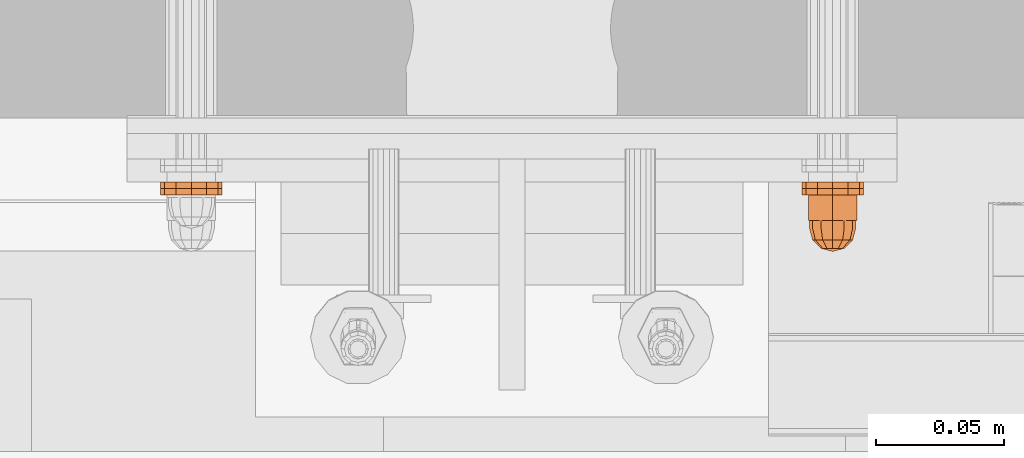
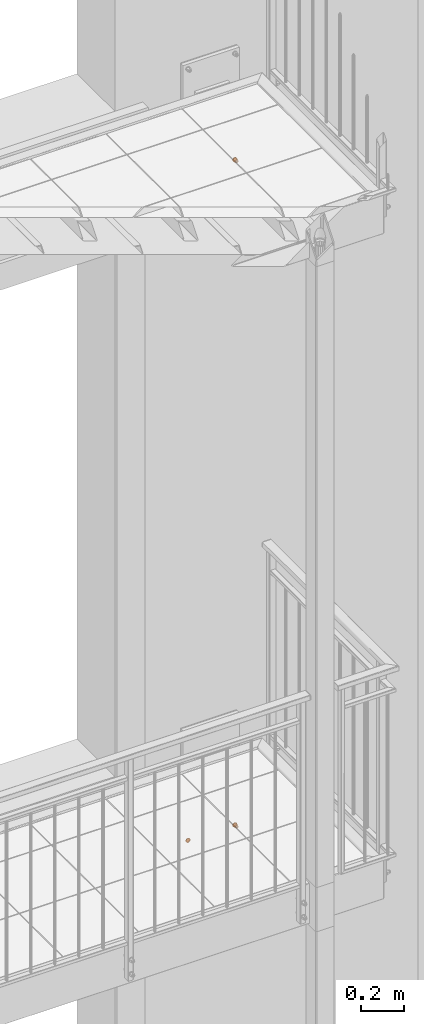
# One storey, part 152 of 162: 8 proxies.
"""IFC2X3 building model written with IfcOpenShell, lengths in millimetres."""

from ifc_helpers import new_model, entity, si_unit, converted_unit, origin_with_axes, place, context, project, spatial, faceted_brep, material, element, save


model = new_model("IFC2X3")

# Units and contexts
model_context = context("Model", 3, precision=1e-09, world=origin_with_axes())
ifc_project = project(units=[si_unit("LENGTHUNIT", "METRE", prefix="MILLI"), si_unit("AREAUNIT", "SQUARE_METRE"), si_unit("VOLUMEUNIT", "CUBIC_METRE"), converted_unit("PLANEANGLEUNIT", "DEGREE", entity("IfcPlaneAngleMeasure", 0.01745329), si_unit("PLANEANGLEUNIT", "RADIAN"), dimensions=[0, 0, 0, 0, 0, 0, 0])], contexts=[model_context])

# Site, building, storey
site_placement = place(None, origin_with_axes())
site = spatial("IfcSite", under=ifc_project, at=site_placement, Name="Hermannstra?e 1a, 60318 Frankfurt", CompositionType="ELEMENT")
building_placement = place(site_placement, origin_with_axes())
building = spatial("IfcBuilding", under=site, at=building_placement, Name="Struktur 1", CompositionType="ELEMENT")
storey_placement = place(building_placement, origin_with_axes())
storey = spatial("IfcBuildingStorey", under=building, at=storey_placement, Name="Default Storey", CompositionType="ELEMENT", Elevation=0.0)

# Proxies
ifc_material_1 = material(Name="A4")
proxy_1_placement = place(None, origin_with_axes())
element("IfcBuildingElementProxy", 1, at=proxy_1_placement, inside=storey, material=ifc_material_1, ObjectType="-", context=model_context, shape_type="Brep", body=[
    faceted_brep([(5437.917059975, 2708.109373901, 11010.999), (5437.917059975, 2705.609373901, 11010.999), (5442.30936482, 2705.609373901, 11015.391304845), (5442.30936482, 2708.109373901, 11015.391304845), (5436.30936482, 2705.609373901, 11004.999), (5437.917059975, 2705.609373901, 10998.999), (5442.30936482, 2705.609373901, 10994.606695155), (5448.30936482, 2705.609373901, 10992.999), (5454.30936482, 2705.609373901, 10994.606695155), (5458.701669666, 2705.609373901, 10998.999), (5460.30936482, 2705.609373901, 11004.999), (5458.701669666, 2705.609373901, 11010.999), (5454.30936482, 2705.609373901, 11015.391304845), (5448.30936482, 2705.609373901, 11016.999), (5448.30936482, 2705.609373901, 11011.499), (5451.55936482, 2705.609373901, 11010.628165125), (5453.938529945, 2705.609373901, 11008.249), (5454.80936482, 2705.609373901, 11004.999), (5453.938529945, 2705.609373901, 11001.749), (5451.55936482, 2705.609373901, 10999.369834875), (5448.30936482, 2705.609373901, 10998.499), (5445.05936482, 2705.609373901, 10999.369834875), (5442.680199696, 2705.609373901, 11001.749), (5441.80936482, 2705.609373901, 11004.999), (5442.680199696, 2705.609373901, 11008.249), (5445.05936482, 2705.609373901, 11010.628165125), (5442.680199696, 2708.109373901, 11008.249), (5441.80936482, 2708.109373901, 11004.999), (5442.680199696, 2708.109373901, 11001.749), (5445.05936482, 2708.109373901, 10999.369834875), (5448.30936482, 2708.109373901, 10998.499), (5451.55936482, 2708.109373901, 10999.369834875), (5453.938529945, 2708.109373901, 11001.749), (5454.80936482, 2708.109373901, 11004.999), (5453.938529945, 2708.109373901, 11008.249), (5451.55936482, 2708.109373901, 11010.628165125), (5448.30936482, 2708.109373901, 11011.499), (5445.05936482, 2708.109373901, 11010.628165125), (5436.30936482, 2708.109373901, 11004.999), (5448.30936482, 2708.109373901, 11016.999), (5437.917059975, 2708.109373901, 10998.999), (5454.30936482, 2708.109373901, 11015.391304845), (5442.30936482, 2708.109373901, 10994.606695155), (5458.701669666, 2708.109373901, 11010.999), (5448.30936482, 2708.109373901, 10992.999), (5460.30936482, 2708.109373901, 11004.999), (5454.30936482, 2708.109373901, 10994.606695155), (5458.701669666, 2708.109373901, 10998.999)], [[[0, 1, 2, 3]], [[2, 1, 4, 5, 6, 7, 8, 9, 10, 11, 12, 13], [14, 15, 16, 17, 18, 19, 20, 21, 22, 23, 24, 25]], [[26, 27, 28, 29, 30, 31, 32, 33, 34, 35, 36, 37]], [[24, 26, 37, 25]], [[1, 0, 38, 4]], [[26, 24, 23, 27]], [[25, 37, 36, 14]], [[3, 2, 13, 39]], [[4, 38, 40, 5]], [[27, 23, 22, 28]], [[14, 36, 35, 15]], [[39, 13, 12, 41]], [[5, 40, 42, 6]], [[28, 22, 21, 29]], [[15, 35, 34, 16]], [[41, 12, 11, 43]], [[33, 17, 16, 34]], [[6, 42, 44, 7]], [[29, 21, 20, 30]], [[32, 18, 17, 33]], [[43, 11, 10, 45]], [[19, 31, 30, 20]], [[18, 32, 31, 19]], [[7, 44, 46, 8]], [[45, 10, 9, 47]], [[8, 46, 47, 9]]]),
])
ifc_material_2 = material(Name="Kunststoff")
proxy_2_placement = place(None, origin_with_axes())
element("IfcBuildingElementProxy", 2, at=proxy_2_placement, inside=storey, material=ifc_material_2, ObjectType="-", context=model_context, shape_type="Brep", body=[
    faceted_brep([(5458.701669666, 2710.609373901, 11010.999), (5458.701669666, 2708.109373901, 11010.999), (5460.30936482, 2708.109373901, 11004.999), (5460.30936482, 2710.609373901, 11004.999), (5453.938529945, 2710.609373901, 11008.249), (5451.55936482, 2710.609373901, 11010.628165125), (5448.30936482, 2710.609373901, 11011.499), (5445.05936482, 2710.609373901, 11010.628165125), (5442.680199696, 2710.609373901, 11008.249), (5441.80936482, 2710.609373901, 11004.999), (5442.680199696, 2710.609373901, 11001.749), (5445.05936482, 2710.609373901, 10999.369834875), (5448.30936482, 2710.609373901, 10998.499), (5451.55936482, 2710.609373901, 10999.369834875), (5453.938529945, 2710.609373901, 11001.749), (5454.80936482, 2710.609373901, 11004.999), (5454.80936482, 2708.109373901, 11004.999), (5453.938529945, 2708.109373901, 11008.249), (5454.30936482, 2708.109373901, 11015.391304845), (5448.30936482, 2708.109373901, 11016.999), (5442.30936482, 2708.109373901, 11015.391304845), (5437.917059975, 2708.109373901, 11010.999), (5436.30936482, 2708.109373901, 11004.999), (5437.917059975, 2708.109373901, 10998.999), (5442.30936482, 2708.109373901, 10994.606695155), (5448.30936482, 2708.109373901, 10992.999), (5454.30936482, 2708.109373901, 10994.606695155), (5458.701669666, 2708.109373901, 10998.999), (5454.30936482, 2710.609373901, 11015.391304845), (5453.938529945, 2708.109373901, 11001.749), (5458.701669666, 2710.609373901, 10998.999), (5451.55936482, 2708.109373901, 11010.628165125), (5448.30936482, 2710.609373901, 11016.999), (5451.55936482, 2708.109373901, 10999.369834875), (5454.30936482, 2710.609373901, 10994.606695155), (5448.30936482, 2708.109373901, 11011.499), (5448.30936482, 2708.109373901, 10998.499), (5442.30936482, 2710.609373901, 11015.391304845), (5445.05936482, 2708.109373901, 11010.628165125), (5448.30936482, 2710.609373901, 10992.999), (5445.05936482, 2708.109373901, 10999.369834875), (5437.917059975, 2710.609373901, 11010.999), (5442.680199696, 2708.109373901, 11008.249), (5442.30936482, 2710.609373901, 10994.606695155), (5442.680199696, 2708.109373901, 11001.749), (5436.30936482, 2710.609373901, 11004.999), (5441.80936482, 2708.109373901, 11004.999), (5437.917059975, 2710.609373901, 10998.999)], [[[0, 1, 2, 3]], [[4, 5, 6, 7, 8, 9, 10, 11, 12, 13, 14, 15]], [[15, 16, 17, 4]], [[1, 18, 19, 20, 21, 22, 23, 24, 25, 26, 27, 2]], [[1, 0, 28, 18]], [[16, 15, 14, 29]], [[3, 2, 27, 30]], [[4, 17, 31, 5]], [[18, 28, 32, 19]], [[29, 14, 13, 33]], [[30, 27, 26, 34]], [[5, 31, 35, 6]], [[33, 13, 12, 36]], [[19, 32, 37, 20]], [[6, 35, 38, 7]], [[34, 26, 25, 39]], [[36, 12, 11, 40]], [[20, 37, 41, 21]], [[7, 38, 42, 8]], [[39, 25, 24, 43]], [[40, 11, 10, 44]], [[21, 41, 45, 22]], [[8, 42, 46, 9]], [[43, 24, 23, 47]], [[44, 10, 9, 46]], [[22, 45, 47, 23]]]),
])
proxy_3_placement = place(None, origin_with_axes())
element("IfcBuildingElementProxy", 3, at=proxy_3_placement, inside=storey, material=ifc_material_1, ObjectType="-", context=model_context, shape_type="Brep", body=[
    faceted_brep([(5704.30936482, 2695.609373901, 11004.999), (5704.30936482, 2705.609373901, 11004.999), (5703.505517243, 2705.609373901, 11001.999), (5703.505517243, 2695.609373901, 11001.999), (5701.30936482, 2705.609373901, 10999.802847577), (5701.30936482, 2695.609373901, 10999.802847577), (5703.505517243, 2695.609373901, 11007.999), (5703.505517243, 2705.609373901, 11007.999), (5707.789234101, 2705.609373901, 11010.472205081), (5707.789234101, 2705.609373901, 10999.525794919), (5698.30936482, 2705.609373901, 10994.052589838), (5688.82949554, 2705.609373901, 10999.525794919), (5688.82949554, 2705.609373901, 11010.472205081), (5698.30936482, 2705.609373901, 11015.945410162), (5701.30936482, 2705.609373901, 11010.195152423), (5698.30936482, 2705.609373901, 11010.999), (5695.30936482, 2705.609373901, 11010.195152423), (5693.113212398, 2705.609373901, 11007.999), (5692.30936482, 2705.609373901, 11004.999), (5693.113212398, 2705.609373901, 11001.999), (5695.30936482, 2705.609373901, 10999.802847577), (5698.30936482, 2705.609373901, 10998.999), (5707.789234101, 2695.609373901, 11010.472205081), (5698.30936482, 2695.609373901, 11015.945410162), (5688.82949554, 2695.609373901, 11010.472205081), (5688.82949554, 2695.609373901, 10999.525794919), (5698.30936482, 2695.609373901, 10994.052589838), (5707.789234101, 2695.609373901, 10999.525794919), (5701.30936482, 2695.609373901, 11010.195152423), (5698.30936482, 2695.609373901, 10998.999), (5698.30936482, 2695.609373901, 11010.999), (5695.30936482, 2695.609373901, 10999.802847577), (5695.30936482, 2695.609373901, 11010.195152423), (5693.113212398, 2695.609373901, 11001.999), (5693.113212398, 2695.609373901, 11007.999), (5692.30936482, 2695.609373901, 11004.999)], [[[0, 1, 2, 3]], [[3, 2, 4, 5]], [[1, 0, 6, 7]], [[8, 9, 10, 11, 12, 13], [7, 14, 15, 16, 17, 18, 19, 20, 21, 4, 2, 1]], [[22, 23, 24, 25, 26, 27]], [[7, 6, 28, 14]], [[22, 27, 9, 8]], [[5, 4, 21, 29]], [[10, 9, 27, 26]], [[14, 28, 30, 15]], [[23, 22, 8, 13]], [[29, 21, 20, 31]], [[11, 10, 26, 25]], [[15, 30, 32, 16]], [[24, 23, 13, 12]], [[31, 20, 19, 33]], [[25, 24, 12, 11]], [[16, 32, 34, 17]], [[33, 19, 18, 35]], [[17, 34, 35, 18]]]),
    faceted_brep([(5698.30936482, 2692.609373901, 11013.999), (5698.30936482, 2695.609373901, 11013.999), (5693.80936482, 2695.609373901, 11012.793228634), (5693.80936482, 2692.609373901, 11012.793228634), (5702.80936482, 2692.609373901, 11012.793228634), (5702.80936482, 2695.609373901, 11012.793228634), (5702.80936482, 2692.609373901, 10997.204771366), (5706.103593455, 2692.609373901, 11000.499), (5707.30936482, 2692.609373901, 11004.999), (5706.103593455, 2692.609373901, 11009.499), (5690.515136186, 2692.609373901, 11009.499), (5689.30936482, 2692.609373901, 11004.999), (5690.515136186, 2692.609373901, 11000.499), (5693.80936482, 2692.609373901, 10997.204771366), (5698.30936482, 2692.609373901, 10995.999), (5693.80936482, 2695.609373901, 10997.204771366), (5690.515136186, 2695.609373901, 11000.499), (5689.30936482, 2695.609373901, 11004.999), (5690.515136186, 2695.609373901, 11009.499), (5706.103593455, 2695.609373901, 11009.499), (5707.30936482, 2695.609373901, 11004.999), (5706.103593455, 2695.609373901, 11000.499), (5702.80936482, 2695.609373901, 10997.204771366), (5698.30936482, 2695.609373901, 10995.999)], [[[0, 1, 2, 3]], [[1, 0, 4, 5]], [[6, 7, 8, 9, 4, 0, 3, 10, 11, 12, 13, 14]], [[15, 16, 17, 18, 2, 1, 5, 19, 20, 21, 22, 23]], [[3, 2, 18, 10]], [[5, 4, 9, 19]], [[10, 18, 17, 11]], [[19, 9, 8, 20]], [[22, 6, 14, 23]], [[7, 21, 20, 8]], [[6, 22, 21, 7]], [[11, 17, 16, 12]], [[23, 14, 13, 15]], [[12, 16, 15, 13]]]),
    faceted_brep([(5705.05936482, 2688.109373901, 11008.896114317), (5706.103593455, 2692.609373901, 11009.499), (5702.80936482, 2692.609373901, 11012.793228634), (5702.206479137, 2688.109373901, 11011.749), (5693.80936482, 2692.609373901, 10997.204771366), (5690.515136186, 2692.609373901, 11000.499), (5689.30936482, 2692.609373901, 11004.999), (5690.515136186, 2692.609373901, 11009.499), (5693.80936482, 2692.609373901, 11012.793228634), (5698.30936482, 2692.609373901, 11013.999), (5707.30936482, 2692.609373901, 11004.999), (5706.103593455, 2692.609373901, 11000.499), (5702.80936482, 2692.609373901, 10997.204771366), (5698.30936482, 2692.609373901, 10995.999), (5698.30936482, 2688.109373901, 11012.793228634), (5702.80936482, 2684.815145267, 11004.999), (5706.103593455, 2688.109373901, 11004.999), (5702.206479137, 2684.815145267, 11007.249), (5694.412250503, 2688.109373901, 11011.749), (5700.55936482, 2684.815145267, 11008.896114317), (5702.206479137, 2684.815145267, 11002.749), (5705.05936482, 2688.109373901, 11001.101885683), (5698.30936482, 2684.815145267, 11009.499), (5698.30936482, 2683.609373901, 11004.999), (5700.55936482, 2684.815145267, 11001.101885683), (5702.206479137, 2688.109373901, 10998.249), (5698.30936482, 2688.109373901, 10997.204771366), (5691.55936482, 2688.109373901, 11008.896114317), (5696.05936482, 2684.815145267, 11008.896114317), (5698.30936482, 2684.815145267, 11000.499), (5694.412250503, 2688.109373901, 10998.249), (5696.05936482, 2684.815145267, 11001.101885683), (5690.515136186, 2688.109373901, 11004.999), (5694.412250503, 2684.815145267, 11007.249), (5691.55936482, 2688.109373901, 11001.101885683), (5694.412250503, 2684.815145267, 11002.749), (5693.80936482, 2684.815145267, 11004.999)], [[[0, 1, 2, 3]], [[4, 5, 6, 7, 8, 9, 2, 1, 10, 11, 12, 13]], [[3, 2, 9, 14]], [[15, 16, 0, 17]], [[1, 0, 16, 10]], [[14, 9, 8, 18]], [[17, 0, 3, 19]], [[16, 15, 20, 21]], [[19, 3, 14, 22]], [[17, 23, 15]], [[24, 25, 21, 20]], [[15, 23, 20]], [[12, 25, 26, 13]], [[11, 21, 25, 12]], [[10, 16, 21, 11]], [[18, 8, 7, 27]], [[22, 14, 18, 28]], [[19, 23, 17]], [[29, 26, 25, 24]], [[20, 23, 24]], [[22, 23, 19]], [[13, 26, 30, 4]], [[26, 29, 31, 30]], [[24, 23, 29]], [[27, 7, 6, 32]], [[28, 18, 27, 33]], [[28, 23, 22]], [[29, 23, 31]], [[33, 23, 28]], [[4, 30, 34, 5]], [[30, 31, 35, 34]], [[31, 23, 35]], [[32, 6, 5, 34]], [[33, 27, 32, 36]], [[36, 23, 33]], [[35, 23, 36]], [[34, 35, 36, 32]]]),
])
proxy_4_placement = place(None, origin_with_axes())
element("IfcBuildingElementProxy", 4, at=proxy_4_placement, inside=storey, material=ifc_material_1, ObjectType="-", context=model_context, shape_type="Brep", body=[
    faceted_brep([(5687.917059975, 2708.109373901, 11010.999), (5687.917059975, 2705.609373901, 11010.999), (5692.30936482, 2705.609373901, 11015.391304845), (5692.30936482, 2708.109373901, 11015.391304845), (5686.30936482, 2705.609373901, 11004.999), (5687.917059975, 2705.609373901, 10998.999), (5692.30936482, 2705.609373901, 10994.606695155), (5698.30936482, 2705.609373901, 10992.999), (5704.30936482, 2705.609373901, 10994.606695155), (5708.701669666, 2705.609373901, 10998.999), (5710.30936482, 2705.609373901, 11004.999), (5708.701669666, 2705.609373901, 11010.999), (5704.30936482, 2705.609373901, 11015.391304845), (5698.30936482, 2705.609373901, 11016.999), (5698.30936482, 2705.609373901, 11011.499), (5701.55936482, 2705.609373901, 11010.628165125), (5703.938529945, 2705.609373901, 11008.249), (5704.80936482, 2705.609373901, 11004.999), (5703.938529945, 2705.609373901, 11001.749), (5701.55936482, 2705.609373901, 10999.369834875), (5698.30936482, 2705.609373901, 10998.499), (5695.05936482, 2705.609373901, 10999.369834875), (5692.680199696, 2705.609373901, 11001.749), (5691.80936482, 2705.609373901, 11004.999), (5692.680199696, 2705.609373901, 11008.249), (5695.05936482, 2705.609373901, 11010.628165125), (5692.680199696, 2708.109373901, 11008.249), (5691.80936482, 2708.109373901, 11004.999), (5692.680199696, 2708.109373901, 11001.749), (5695.05936482, 2708.109373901, 10999.369834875), (5698.30936482, 2708.109373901, 10998.499), (5701.55936482, 2708.109373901, 10999.369834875), (5703.938529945, 2708.109373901, 11001.749), (5704.80936482, 2708.109373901, 11004.999), (5703.938529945, 2708.109373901, 11008.249), (5701.55936482, 2708.109373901, 11010.628165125), (5698.30936482, 2708.109373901, 11011.499), (5695.05936482, 2708.109373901, 11010.628165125), (5686.30936482, 2708.109373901, 11004.999), (5698.30936482, 2708.109373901, 11016.999), (5687.917059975, 2708.109373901, 10998.999), (5704.30936482, 2708.109373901, 11015.391304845), (5692.30936482, 2708.109373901, 10994.606695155), (5708.701669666, 2708.109373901, 11010.999), (5698.30936482, 2708.109373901, 10992.999), (5710.30936482, 2708.109373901, 11004.999), (5704.30936482, 2708.109373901, 10994.606695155), (5708.701669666, 2708.109373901, 10998.999)], [[[0, 1, 2, 3]], [[2, 1, 4, 5, 6, 7, 8, 9, 10, 11, 12, 13], [14, 15, 16, 17, 18, 19, 20, 21, 22, 23, 24, 25]], [[26, 27, 28, 29, 30, 31, 32, 33, 34, 35, 36, 37]], [[24, 26, 37, 25]], [[1, 0, 38, 4]], [[26, 24, 23, 27]], [[25, 37, 36, 14]], [[3, 2, 13, 39]], [[4, 38, 40, 5]], [[27, 23, 22, 28]], [[14, 36, 35, 15]], [[39, 13, 12, 41]], [[5, 40, 42, 6]], [[28, 22, 21, 29]], [[15, 35, 34, 16]], [[41, 12, 11, 43]], [[33, 17, 16, 34]], [[6, 42, 44, 7]], [[29, 21, 20, 30]], [[32, 18, 17, 33]], [[43, 11, 10, 45]], [[19, 31, 30, 20]], [[18, 32, 31, 19]], [[7, 44, 46, 8]], [[45, 10, 9, 47]], [[8, 46, 47, 9]]]),
])
proxy_5_placement = place(None, origin_with_axes())
element("IfcBuildingElementProxy", 5, at=proxy_5_placement, inside=storey, material=ifc_material_2, ObjectType="-", context=model_context, shape_type="Brep", body=[
    faceted_brep([(5708.701669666, 2710.609373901, 11010.999), (5708.701669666, 2708.109373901, 11010.999), (5710.30936482, 2708.109373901, 11004.999), (5710.30936482, 2710.609373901, 11004.999), (5703.938529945, 2710.609373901, 11008.249), (5701.55936482, 2710.609373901, 11010.628165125), (5698.30936482, 2710.609373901, 11011.499), (5695.05936482, 2710.609373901, 11010.628165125), (5692.680199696, 2710.609373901, 11008.249), (5691.80936482, 2710.609373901, 11004.999), (5692.680199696, 2710.609373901, 11001.749), (5695.05936482, 2710.609373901, 10999.369834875), (5698.30936482, 2710.609373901, 10998.499), (5701.55936482, 2710.609373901, 10999.369834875), (5703.938529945, 2710.609373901, 11001.749), (5704.80936482, 2710.609373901, 11004.999), (5704.80936482, 2708.109373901, 11004.999), (5703.938529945, 2708.109373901, 11008.249), (5704.30936482, 2708.109373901, 11015.391304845), (5698.30936482, 2708.109373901, 11016.999), (5692.30936482, 2708.109373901, 11015.391304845), (5687.917059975, 2708.109373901, 11010.999), (5686.30936482, 2708.109373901, 11004.999), (5687.917059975, 2708.109373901, 10998.999), (5692.30936482, 2708.109373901, 10994.606695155), (5698.30936482, 2708.109373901, 10992.999), (5704.30936482, 2708.109373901, 10994.606695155), (5708.701669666, 2708.109373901, 10998.999), (5704.30936482, 2710.609373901, 11015.391304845), (5703.938529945, 2708.109373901, 11001.749), (5708.701669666, 2710.609373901, 10998.999), (5701.55936482, 2708.109373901, 11010.628165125), (5698.30936482, 2710.609373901, 11016.999), (5701.55936482, 2708.109373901, 10999.369834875), (5704.30936482, 2710.609373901, 10994.606695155), (5698.30936482, 2708.109373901, 11011.499), (5698.30936482, 2708.109373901, 10998.499), (5692.30936482, 2710.609373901, 11015.391304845), (5695.05936482, 2708.109373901, 11010.628165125), (5698.30936482, 2710.609373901, 10992.999), (5695.05936482, 2708.109373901, 10999.369834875), (5687.917059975, 2710.609373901, 11010.999), (5692.680199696, 2708.109373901, 11008.249), (5692.30936482, 2710.609373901, 10994.606695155), (5692.680199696, 2708.109373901, 11001.749), (5686.30936482, 2710.609373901, 11004.999), (5691.80936482, 2708.109373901, 11004.999), (5687.917059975, 2710.609373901, 10998.999)], [[[0, 1, 2, 3]], [[4, 5, 6, 7, 8, 9, 10, 11, 12, 13, 14, 15]], [[15, 16, 17, 4]], [[1, 18, 19, 20, 21, 22, 23, 24, 25, 26, 27, 2]], [[1, 0, 28, 18]], [[16, 15, 14, 29]], [[3, 2, 27, 30]], [[4, 17, 31, 5]], [[18, 28, 32, 19]], [[29, 14, 13, 33]], [[30, 27, 26, 34]], [[5, 31, 35, 6]], [[33, 13, 12, 36]], [[19, 32, 37, 20]], [[6, 35, 38, 7]], [[34, 26, 25, 39]], [[36, 12, 11, 40]], [[20, 37, 41, 21]], [[7, 38, 42, 8]], [[39, 25, 24, 43]], [[40, 11, 10, 44]], [[21, 41, 45, 22]], [[8, 42, 46, 9]], [[43, 24, 23, 47]], [[44, 10, 9, 46]], [[22, 45, 47, 23]]]),
])
proxy_6_placement = place(None, origin_with_axes())
element("IfcBuildingElementProxy", 6, at=proxy_6_placement, inside=storey, material=ifc_material_2, ObjectType="-", context=model_context, shape_type="Brep", body=[
    faceted_brep([(5708.702376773, 2710.610081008, 14767.999), (5708.702376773, 2708.110081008, 14767.999), (5710.310071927, 2708.110081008, 14761.999), (5710.310071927, 2710.610081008, 14761.999), (5703.939237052, 2710.610081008, 14765.249), (5701.560071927, 2710.610081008, 14767.628165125), (5698.310071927, 2710.610081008, 14768.499), (5695.060071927, 2710.610081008, 14767.628165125), (5692.680906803, 2710.610081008, 14765.249), (5691.810071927, 2710.610081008, 14761.999), (5692.680906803, 2710.610081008, 14758.749), (5695.060071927, 2710.610081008, 14756.369834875), (5698.310071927, 2710.610081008, 14755.499), (5701.560071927, 2710.610081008, 14756.369834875), (5703.939237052, 2710.610081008, 14758.749), (5704.810071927, 2710.610081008, 14761.999), (5704.810071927, 2708.110081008, 14761.999), (5703.939237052, 2708.110081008, 14765.249), (5704.310071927, 2708.110081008, 14772.391304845), (5698.310071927, 2708.110081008, 14773.999), (5692.310071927, 2708.110081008, 14772.391304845), (5687.917767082, 2708.110081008, 14767.999), (5686.310071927, 2708.110081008, 14761.999), (5687.917767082, 2708.110081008, 14755.999), (5692.310071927, 2708.110081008, 14751.606695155), (5698.310071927, 2708.110081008, 14749.999), (5704.310071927, 2708.110081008, 14751.606695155), (5708.702376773, 2708.110081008, 14755.999), (5704.310071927, 2710.610081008, 14772.391304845), (5703.939237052, 2708.110081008, 14758.749), (5708.702376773, 2710.610081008, 14755.999), (5701.560071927, 2708.110081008, 14767.628165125), (5698.310071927, 2710.610081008, 14773.999), (5701.560071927, 2708.110081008, 14756.369834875), (5704.310071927, 2710.610081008, 14751.606695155), (5698.310071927, 2708.110081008, 14768.499), (5698.310071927, 2708.110081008, 14755.499), (5692.310071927, 2710.610081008, 14772.391304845), (5695.060071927, 2708.110081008, 14767.628165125), (5698.310071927, 2710.610081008, 14749.999), (5695.060071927, 2708.110081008, 14756.369834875), (5687.917767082, 2710.610081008, 14767.999), (5692.680906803, 2708.110081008, 14765.249), (5692.310071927, 2710.610081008, 14751.606695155), (5692.680906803, 2708.110081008, 14758.749), (5686.310071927, 2710.610081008, 14761.999), (5691.810071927, 2708.110081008, 14761.999), (5687.917767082, 2710.610081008, 14755.999)], [[[0, 1, 2, 3]], [[4, 5, 6, 7, 8, 9, 10, 11, 12, 13, 14, 15]], [[15, 16, 17, 4]], [[1, 18, 19, 20, 21, 22, 23, 24, 25, 26, 27, 2]], [[1, 0, 28, 18]], [[16, 15, 14, 29]], [[3, 2, 27, 30]], [[4, 17, 31, 5]], [[18, 28, 32, 19]], [[29, 14, 13, 33]], [[30, 27, 26, 34]], [[5, 31, 35, 6]], [[33, 13, 12, 36]], [[19, 32, 37, 20]], [[6, 35, 38, 7]], [[34, 26, 25, 39]], [[36, 12, 11, 40]], [[20, 37, 41, 21]], [[7, 38, 42, 8]], [[39, 25, 24, 43]], [[40, 11, 10, 44]], [[21, 41, 45, 22]], [[8, 42, 46, 9]], [[43, 24, 23, 47]], [[44, 10, 9, 46]], [[22, 45, 47, 23]]]),
])
proxy_7_placement = place(None, origin_with_axes())
element("IfcBuildingElementProxy", 7, at=proxy_7_placement, inside=storey, material=ifc_material_1, ObjectType="-", context=model_context, shape_type="Brep", body=[
    faceted_brep([(5687.917767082, 2708.110081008, 14767.999), (5687.917767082, 2705.610081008, 14767.999), (5692.310071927, 2705.610081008, 14772.391304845), (5692.310071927, 2708.110081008, 14772.391304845), (5686.310071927, 2705.610081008, 14761.999), (5687.917767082, 2705.610081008, 14755.999), (5692.310071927, 2705.610081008, 14751.606695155), (5698.310071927, 2705.610081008, 14749.999), (5704.310071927, 2705.610081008, 14751.606695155), (5708.702376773, 2705.610081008, 14755.999), (5710.310071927, 2705.610081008, 14761.999), (5708.702376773, 2705.610081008, 14767.999), (5704.310071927, 2705.610081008, 14772.391304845), (5698.310071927, 2705.610081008, 14773.999), (5698.310071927, 2705.610081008, 14768.499), (5701.560071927, 2705.610081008, 14767.628165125), (5703.939237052, 2705.610081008, 14765.249), (5704.810071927, 2705.610081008, 14761.999), (5703.939237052, 2705.610081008, 14758.749), (5701.560071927, 2705.610081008, 14756.369834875), (5698.310071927, 2705.610081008, 14755.499), (5695.060071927, 2705.610081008, 14756.369834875), (5692.680906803, 2705.610081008, 14758.749), (5691.810071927, 2705.610081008, 14761.999), (5692.680906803, 2705.610081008, 14765.249), (5695.060071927, 2705.610081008, 14767.628165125), (5692.680906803, 2708.110081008, 14765.249), (5691.810071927, 2708.110081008, 14761.999), (5692.680906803, 2708.110081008, 14758.749), (5695.060071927, 2708.110081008, 14756.369834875), (5698.310071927, 2708.110081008, 14755.499), (5701.560071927, 2708.110081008, 14756.369834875), (5703.939237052, 2708.110081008, 14758.749), (5704.810071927, 2708.110081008, 14761.999), (5703.939237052, 2708.110081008, 14765.249), (5701.560071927, 2708.110081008, 14767.628165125), (5698.310071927, 2708.110081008, 14768.499), (5695.060071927, 2708.110081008, 14767.628165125), (5686.310071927, 2708.110081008, 14761.999), (5698.310071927, 2708.110081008, 14773.999), (5687.917767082, 2708.110081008, 14755.999), (5704.310071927, 2708.110081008, 14772.391304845), (5692.310071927, 2708.110081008, 14751.606695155), (5708.702376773, 2708.110081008, 14767.999), (5698.310071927, 2708.110081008, 14749.999), (5710.310071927, 2708.110081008, 14761.999), (5704.310071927, 2708.110081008, 14751.606695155), (5708.702376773, 2708.110081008, 14755.999)], [[[0, 1, 2, 3]], [[2, 1, 4, 5, 6, 7, 8, 9, 10, 11, 12, 13], [14, 15, 16, 17, 18, 19, 20, 21, 22, 23, 24, 25]], [[26, 27, 28, 29, 30, 31, 32, 33, 34, 35, 36, 37]], [[24, 26, 37, 25]], [[1, 0, 38, 4]], [[26, 24, 23, 27]], [[25, 37, 36, 14]], [[3, 2, 13, 39]], [[4, 38, 40, 5]], [[27, 23, 22, 28]], [[14, 36, 35, 15]], [[39, 13, 12, 41]], [[5, 40, 42, 6]], [[28, 22, 21, 29]], [[15, 35, 34, 16]], [[41, 12, 11, 43]], [[33, 17, 16, 34]], [[6, 42, 44, 7]], [[29, 21, 20, 30]], [[32, 18, 17, 33]], [[43, 11, 10, 45]], [[19, 31, 30, 20]], [[18, 32, 31, 19]], [[7, 44, 46, 8]], [[45, 10, 9, 47]], [[8, 46, 47, 9]]]),
])
proxy_8_placement = place(None, origin_with_axes())
element("IfcBuildingElementProxy", 8, at=proxy_8_placement, inside=storey, material=ifc_material_1, ObjectType="-", context=model_context, shape_type="Brep", body=[
    faceted_brep([(5704.310071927, 2695.610081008, 14761.999), (5704.310071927, 2705.610081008, 14761.999), (5703.50622435, 2705.610081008, 14758.999), (5703.50622435, 2695.610081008, 14758.999), (5701.310071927, 2705.610081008, 14756.802847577), (5701.310071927, 2695.610081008, 14756.802847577), (5703.50622435, 2695.610081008, 14764.999), (5703.50622435, 2705.610081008, 14764.999), (5707.789941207, 2705.610081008, 14767.472205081), (5707.789941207, 2705.610081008, 14756.525794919), (5698.310071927, 2705.610081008, 14751.052589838), (5688.830202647, 2705.610081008, 14756.525794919), (5688.830202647, 2705.610081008, 14767.472205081), (5698.310071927, 2705.610081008, 14772.945410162), (5701.310071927, 2705.610081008, 14767.195152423), (5698.310071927, 2705.610081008, 14767.999), (5695.310071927, 2705.610081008, 14767.195152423), (5693.113919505, 2705.610081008, 14764.999), (5692.310071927, 2705.610081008, 14761.999), (5693.113919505, 2705.610081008, 14758.999), (5695.310071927, 2705.610081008, 14756.802847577), (5698.310071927, 2705.610081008, 14755.999), (5707.789941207, 2695.610081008, 14767.472205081), (5698.310071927, 2695.610081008, 14772.945410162), (5688.830202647, 2695.610081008, 14767.472205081), (5688.830202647, 2695.610081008, 14756.525794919), (5698.310071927, 2695.610081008, 14751.052589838), (5707.789941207, 2695.610081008, 14756.525794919), (5701.310071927, 2695.610081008, 14767.195152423), (5698.310071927, 2695.610081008, 14755.999), (5698.310071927, 2695.610081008, 14767.999), (5695.310071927, 2695.610081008, 14756.802847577), (5695.310071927, 2695.610081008, 14767.195152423), (5693.113919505, 2695.610081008, 14758.999), (5693.113919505, 2695.610081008, 14764.999), (5692.310071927, 2695.610081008, 14761.999)], [[[0, 1, 2, 3]], [[3, 2, 4, 5]], [[1, 0, 6, 7]], [[8, 9, 10, 11, 12, 13], [7, 14, 15, 16, 17, 18, 19, 20, 21, 4, 2, 1]], [[22, 23, 24, 25, 26, 27]], [[7, 6, 28, 14]], [[22, 27, 9, 8]], [[5, 4, 21, 29]], [[10, 9, 27, 26]], [[14, 28, 30, 15]], [[23, 22, 8, 13]], [[29, 21, 20, 31]], [[11, 10, 26, 25]], [[15, 30, 32, 16]], [[24, 23, 13, 12]], [[31, 20, 19, 33]], [[25, 24, 12, 11]], [[16, 32, 34, 17]], [[33, 19, 18, 35]], [[17, 34, 35, 18]]]),
    faceted_brep([(5698.310071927, 2692.610081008, 14770.999), (5698.310071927, 2695.610081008, 14770.999), (5693.810071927, 2695.610081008, 14769.793228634), (5693.810071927, 2692.610081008, 14769.793228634), (5702.810071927, 2692.610081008, 14769.793228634), (5702.810071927, 2695.610081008, 14769.793228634), (5702.810071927, 2692.610081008, 14754.204771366), (5706.104300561, 2692.610081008, 14757.499), (5707.310071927, 2692.610081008, 14761.999), (5706.104300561, 2692.610081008, 14766.499), (5690.515843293, 2692.610081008, 14766.499), (5689.310071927, 2692.610081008, 14761.999), (5690.515843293, 2692.610081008, 14757.499), (5693.810071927, 2692.610081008, 14754.204771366), (5698.310071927, 2692.610081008, 14752.999), (5693.810071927, 2695.610081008, 14754.204771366), (5690.515843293, 2695.610081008, 14757.499), (5689.310071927, 2695.610081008, 14761.999), (5690.515843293, 2695.610081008, 14766.499), (5706.104300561, 2695.610081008, 14766.499), (5707.310071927, 2695.610081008, 14761.999), (5706.104300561, 2695.610081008, 14757.499), (5702.810071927, 2695.610081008, 14754.204771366), (5698.310071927, 2695.610081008, 14752.999)], [[[0, 1, 2, 3]], [[1, 0, 4, 5]], [[6, 7, 8, 9, 4, 0, 3, 10, 11, 12, 13, 14]], [[15, 16, 17, 18, 2, 1, 5, 19, 20, 21, 22, 23]], [[3, 2, 18, 10]], [[5, 4, 9, 19]], [[10, 18, 17, 11]], [[19, 9, 8, 20]], [[22, 6, 14, 23]], [[7, 21, 20, 8]], [[6, 22, 21, 7]], [[11, 17, 16, 12]], [[23, 14, 13, 15]], [[12, 16, 15, 13]]]),
    faceted_brep([(5705.060071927, 2688.110081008, 14765.896114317), (5706.104300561, 2692.610081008, 14766.499), (5702.810071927, 2692.610081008, 14769.793228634), (5702.207186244, 2688.110081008, 14768.749), (5693.810071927, 2692.610081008, 14754.204771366), (5690.515843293, 2692.610081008, 14757.499), (5689.310071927, 2692.610081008, 14761.999), (5690.515843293, 2692.610081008, 14766.499), (5693.810071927, 2692.610081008, 14769.793228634), (5698.310071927, 2692.610081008, 14770.999), (5707.310071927, 2692.610081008, 14761.999), (5706.104300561, 2692.610081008, 14757.499), (5702.810071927, 2692.610081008, 14754.204771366), (5698.310071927, 2692.610081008, 14752.999), (5698.310071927, 2688.110081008, 14769.793228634), (5702.810071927, 2684.815852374, 14761.999), (5706.104300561, 2688.110081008, 14761.999), (5702.207186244, 2684.815852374, 14764.249), (5694.41295761, 2688.110081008, 14768.749), (5700.560071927, 2684.815852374, 14765.896114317), (5702.207186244, 2684.815852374, 14759.749), (5705.060071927, 2688.110081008, 14758.101885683), (5698.310071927, 2684.815852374, 14766.499), (5698.310071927, 2683.610081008, 14761.999), (5700.560071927, 2684.815852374, 14758.101885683), (5702.207186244, 2688.110081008, 14755.249), (5698.310071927, 2688.110081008, 14754.204771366), (5691.560071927, 2688.110081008, 14765.896114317), (5696.060071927, 2684.815852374, 14765.896114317), (5698.310071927, 2684.815852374, 14757.499), (5694.41295761, 2688.110081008, 14755.249), (5696.060071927, 2684.815852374, 14758.101885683), (5690.515843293, 2688.110081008, 14761.999), (5694.41295761, 2684.815852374, 14764.249), (5691.560071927, 2688.110081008, 14758.101885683), (5694.41295761, 2684.815852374, 14759.749), (5693.810071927, 2684.815852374, 14761.999)], [[[0, 1, 2, 3]], [[4, 5, 6, 7, 8, 9, 2, 1, 10, 11, 12, 13]], [[3, 2, 9, 14]], [[15, 16, 0, 17]], [[1, 0, 16, 10]], [[14, 9, 8, 18]], [[17, 0, 3, 19]], [[16, 15, 20, 21]], [[19, 3, 14, 22]], [[17, 23, 15]], [[24, 25, 21, 20]], [[15, 23, 20]], [[12, 25, 26, 13]], [[11, 21, 25, 12]], [[10, 16, 21, 11]], [[18, 8, 7, 27]], [[22, 14, 18, 28]], [[19, 23, 17]], [[29, 26, 25, 24]], [[20, 23, 24]], [[22, 23, 19]], [[13, 26, 30, 4]], [[26, 29, 31, 30]], [[24, 23, 29]], [[27, 7, 6, 32]], [[28, 18, 27, 33]], [[28, 23, 22]], [[29, 23, 31]], [[33, 23, 28]], [[4, 30, 34, 5]], [[30, 31, 35, 34]], [[31, 23, 35]], [[32, 6, 5, 34]], [[33, 27, 32, 36]], [[36, 23, 33]], [[35, 23, 36]], [[34, 35, 36, 32]]]),
])

save(model, "model.ifc")
